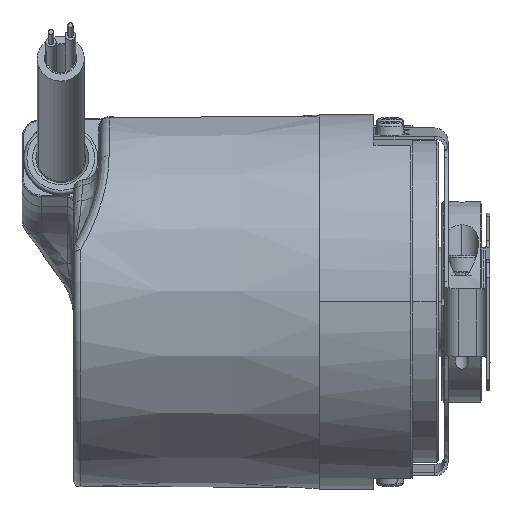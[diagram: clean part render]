
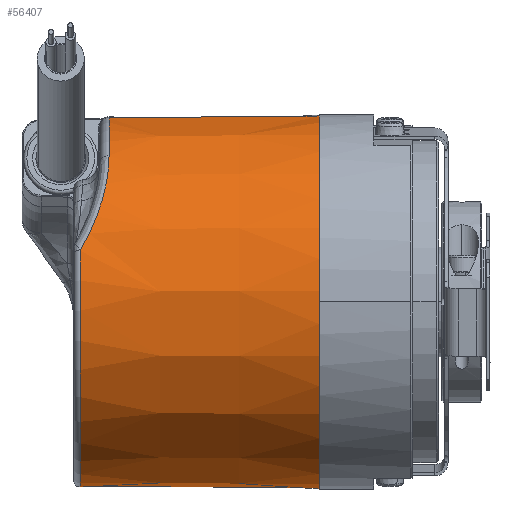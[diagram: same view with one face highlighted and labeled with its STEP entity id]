
A CAD part, top view. The second image highlights one B-rep face of the part: STEP entity #56407.
In plain terms, the highlighted conical face has half-angle 0.5 degrees and reference radius 29 mm.
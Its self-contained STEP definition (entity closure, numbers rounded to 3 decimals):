
#861 = EDGE_CURVE ( 'NONE', #34062, #34198, #27888, .T. ) ;
#878 = EDGE_CURVE ( 'NONE', #21905, #20737, #17825, .T. ) ;
#3080 = VERTEX_POINT ( 'NONE', #22967 ) ;
#3151 = VERTEX_POINT ( 'NONE', #23028 ) ;
#4248 = EDGE_CURVE ( 'NONE', #3080, #34062, #29457, .T. ) ;
#4566 = EDGE_CURVE ( 'NONE', #34198, #3151, #29931, .T. ) ;
#6202 = EDGE_LOOP ( 'NONE', ( #6846, #6685, #6832, #6764, #6842, #6840 ) ) ;
#6685 = ORIENTED_EDGE ( 'NONE', *, *, #4248, .T. ) ;
#6764 = ORIENTED_EDGE ( 'NONE', *, *, #4566, .T. ) ;
#6832 = ORIENTED_EDGE ( 'NONE', *, *, #861, .T. ) ;
#6840 = ORIENTED_EDGE ( 'NONE', *, *, #878, .T. ) ;
#6842 = ORIENTED_EDGE ( 'NONE', *, *, #64141, .T. ) ;
#6846 = ORIENTED_EDGE ( 'NONE', *, *, #64135, .F. ) ;
#16196 = AXIS2_PLACEMENT_3D ( 'NONE', #22544, #22545, #22546 ) ;
#16330 = AXIS2_PLACEMENT_3D ( 'NONE', #31668, #31669, #31670 ) ;
#16514 = AXIS2_PLACEMENT_3D ( 'NONE', #32731, #32732, #32733 ) ;
#17825 = CIRCLE ( 'NONE', #16196, 29. ) ;
#20737 = VERTEX_POINT ( 'NONE', #54847 ) ;
#21905 = VERTEX_POINT ( 'NONE', #55067 ) ;
#22427 = CARTESIAN_POINT ( 'NONE',  ( -25.013, 21.643, 18.939 ) ) ;
#22428 = CARTESIAN_POINT ( 'NONE',  ( -25.087, 20.58, 20.087 ) ) ;
#22433 = CARTESIAN_POINT ( 'NONE',  ( -25.013, 22.616, 17.695 ) ) ;
#22435 = CARTESIAN_POINT ( 'NONE',  ( -25.298, 19.144, 21.405 ) ) ;
#22436 = CARTESIAN_POINT ( 'NONE',  ( -25.346, 18.851, 21.662 ) ) ;
#22437 = CARTESIAN_POINT ( 'NONE',  ( -25.455, 18.255, 22.166 ) ) ;
#22438 = CARTESIAN_POINT ( 'NONE',  ( -25.516, 17.951, 22.412 ) ) ;
#22439 = CARTESIAN_POINT ( 'NONE',  ( -25.716, 17.034, 23.124 ) ) ;
#22440 = CARTESIAN_POINT ( 'NONE',  ( -25.874, 16.412, 23.567 ) ) ;
#22441 = CARTESIAN_POINT ( 'NONE',  ( -26.423, 14.516, 24.809 ) ) ;
#22442 = CARTESIAN_POINT ( 'NONE',  ( -26.889, 13.214, 25.519 ) ) ;
#22443 = CARTESIAN_POINT ( 'NONE',  ( -27.755, 11.218, 26.419 ) ) ;
#22444 = CARTESIAN_POINT ( 'NONE',  ( -28.072, 10.545, 26.691 ) ) ;
#22445 = CARTESIAN_POINT ( 'NONE',  ( -28.753, 9.211, 27.174 ) ) ;
#22446 = CARTESIAN_POINT ( 'NONE',  ( -29.119, 8.546, 27.386 ) ) ;
#22447 = CARTESIAN_POINT ( 'NONE',  ( -29.509, 7.885, 27.572 ) ) ;
#22544 = CARTESIAN_POINT ( 'NONE',  ( 7.5, 0., 0. ) ) ;
#22545 = DIRECTION ( 'NONE',  ( -1., 0., 0. ) ) ;
#22546 = DIRECTION ( 'NONE',  ( 0., 0.993, 0.12 ) ) ;
#22967 = CARTESIAN_POINT ( 'NONE',  ( -25.013, 28.51, 3.434 ) ) ;
#23028 = CARTESIAN_POINT ( 'NONE',  ( -29.509, -28.471, -3.43 ) ) ;
#24783 = CARTESIAN_POINT ( 'NONE',  ( 7.5, 28.792, 3.468 ) ) ;
#24786 = DIRECTION ( 'NONE',  ( 1., 0.009, 0.001 ) ) ;
#24838 = CARTESIAN_POINT ( 'NONE',  ( 7.5, -28.792, -3.468 ) ) ;
#24841 = DIRECTION ( 'NONE',  ( 1., -0.009, -0.001 ) ) ;
#25677 = LINE ( 'NONE', #24783, #25680 ) ;
#25680 = VECTOR ( 'NONE', #24786, 1000. ) ;
#25685 = LINE ( 'NONE', #24838, #25688 ) ;
#25688 = VECTOR ( 'NONE', #24841, 1000. ) ;
#27888 = B_SPLINE_CURVE_WITH_KNOTS ( 'NONE', 3,
 ( #22433, #22427, #22428, #22435, #22436, #22437, #22438, #22439, #22440, #22441, #22442, #22443, #22444, #22445, #22446, #22447 ),
 .UNSPECIFIED., .F., .F.,
 ( 4, 2, 2, 2, 2, 2, 2, 4 ),
 ( 0., 0.005, 0.006, 0.007, 0.009, 0.014, 0.016, 0.019 ),
 .UNSPECIFIED. ) ;
#29457 = CIRCLE ( 'NONE', #16330, 28.716 ) ;
#29931 = CIRCLE ( 'NONE', #16514, 28.677 ) ;
#31668 = CARTESIAN_POINT ( 'NONE',  ( -25.013, 0., 0. ) ) ;
#31669 = DIRECTION ( 'NONE',  ( 1., 0., 0. ) ) ;
#31670 = DIRECTION ( 'NONE',  ( 0., -0.993, -0.12 ) ) ;
#32731 = CARTESIAN_POINT ( 'NONE',  ( -29.509, 0., 0. ) ) ;
#32732 = DIRECTION ( 'NONE',  ( 1., 0., 0. ) ) ;
#32733 = DIRECTION ( 'NONE',  ( 0., 0.993, 0.12 ) ) ;
#34062 = VERTEX_POINT ( 'NONE', #55556 ) ;
#34198 = VERTEX_POINT ( 'NONE', #55581 ) ;
#54847 = CARTESIAN_POINT ( 'NONE',  ( 7.5, 28.792, 3.468 ) ) ;
#55067 = CARTESIAN_POINT ( 'NONE',  ( 7.5, -28.792, -3.468 ) ) ;
#55556 = CARTESIAN_POINT ( 'NONE',  ( -25.013, 22.616, 17.695 ) ) ;
#55581 = CARTESIAN_POINT ( 'NONE',  ( -29.509, 7.885, 27.572 ) ) ;
#56357 = AXIS2_PLACEMENT_3D ( 'NONE', #58854, #58853, #58850 ) ;
#56407 = ADVANCED_FACE ( 'NONE', ( #59655 ), #59663, .T. ) ;
#58850 = DIRECTION ( 'NONE',  ( 0., -0.993, -0.12 ) ) ;
#58853 = DIRECTION ( 'NONE',  ( 1., 0., 0. ) ) ;
#58854 = CARTESIAN_POINT ( 'NONE',  ( 7.5, 0., 0. ) ) ;
#59655 = FACE_OUTER_BOUND ( 'NONE', #6202, .T. ) ;
#59663 = CONICAL_SURFACE ( 'NONE', #56357, 29., 0.009 ) ;
#64135 = EDGE_CURVE ( 'NONE', #3080, #20737, #25677, .T. ) ;
#64141 = EDGE_CURVE ( 'NONE', #3151, #21905, #25685, .T. ) ;
